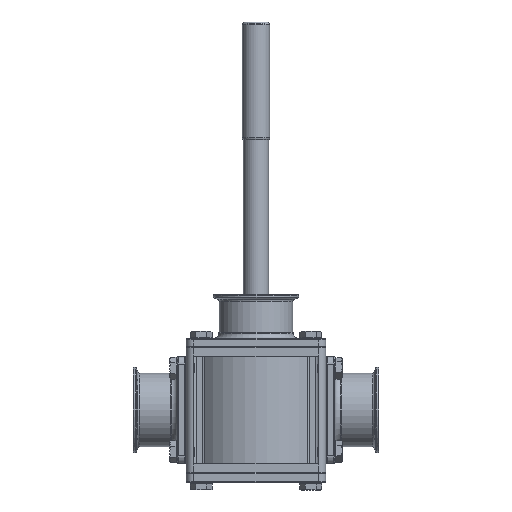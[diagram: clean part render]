
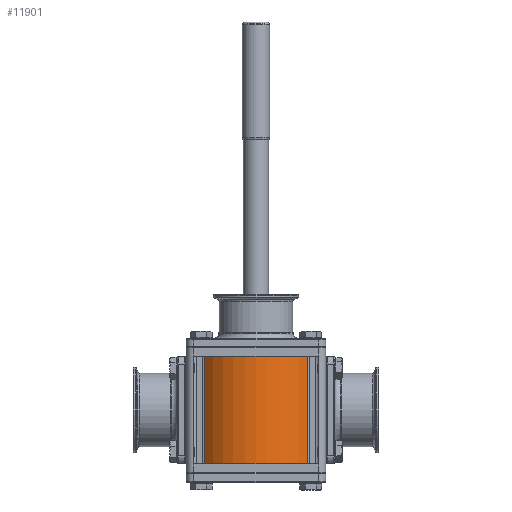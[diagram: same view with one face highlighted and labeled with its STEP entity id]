
A CAD part, front view. The second image highlights one B-rep face of the part: STEP entity #11901.
In plain terms, the highlighted cylindrical face has radius 73 mm (diameter 146 mm), a partial arc.
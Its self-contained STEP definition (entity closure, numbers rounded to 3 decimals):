
#464 = CIRCLE ( 'NONE', #25805, 73. ) ;
#520 = CARTESIAN_POINT ( 'NONE',  ( 0., 0., -57. ) ) ;
#1046 = DIRECTION ( 'NONE',  ( 0., 0., 1. ) ) ;
#3224 = DIRECTION ( 'NONE',  ( 1., 0., 0. ) ) ;
#3686 = DIRECTION ( 'NONE',  ( 0., 0., 1. ) ) ;
#4414 = VERTEX_POINT ( 'NONE', #36148 ) ;
#5876 = VECTOR ( 'NONE', #24352, 1000. ) ;
#7927 = EDGE_CURVE ( 'NONE', #4414, #37029, #8576, .T. ) ;
#8576 = CIRCLE ( 'NONE', #11711, 73. ) ;
#8681 = AXIS2_PLACEMENT_3D ( 'NONE', #520, #1046, #9509 ) ;
#9509 = DIRECTION ( 'NONE',  ( 1., 0., 0. ) ) ;
#10559 = VERTEX_POINT ( 'NONE', #22935 ) ;
#11691 = DIRECTION ( 'NONE',  ( 0., 0., -1. ) ) ;
#11711 = AXIS2_PLACEMENT_3D ( 'NONE', #23866, #11691, #3224 ) ;
#11901 = ADVANCED_FACE ( 'NONE', ( #21527 ), #31285, .T. ) ;
#12576 = ORIENTED_EDGE ( 'NONE', *, *, #7927, .T. ) ;
#13703 = EDGE_LOOP ( 'NONE', ( #12576, #35916, #33095, #23432 ) ) ;
#15154 = EDGE_CURVE ( 'NONE', #10559, #4414, #24901, .T. ) ;
#15756 = LINE ( 'NONE', #33408, #21794 ) ;
#16984 = CARTESIAN_POINT ( 'NONE',  ( -54.123, -48.987, -57. ) ) ;
#19324 = CARTESIAN_POINT ( 'NONE',  ( 0., 0., -57. ) ) ;
#21527 = FACE_OUTER_BOUND ( 'NONE', #13703, .T. ) ;
#21794 = VECTOR ( 'NONE', #3686, 1000. ) ;
#21901 = EDGE_CURVE ( 'NONE', #25641, #37029, #15756, .T. ) ;
#22426 = DIRECTION ( 'NONE',  ( 0., 0., -1. ) ) ;
#22935 = CARTESIAN_POINT ( 'NONE',  ( 54.123, -48.987, -57. ) ) ;
#23432 = ORIENTED_EDGE ( 'NONE', *, *, #15154, .T. ) ;
#23866 = CARTESIAN_POINT ( 'NONE',  ( 0., 0., 57. ) ) ;
#24352 = DIRECTION ( 'NONE',  ( 0., 0., 1. ) ) ;
#24901 = LINE ( 'NONE', #29796, #5876 ) ;
#25641 = VERTEX_POINT ( 'NONE', #16984 ) ;
#25805 = AXIS2_PLACEMENT_3D ( 'NONE', #19324, #22426, #31737 ) ;
#29796 = CARTESIAN_POINT ( 'NONE',  ( 54.123, -48.987, -57. ) ) ;
#30824 = EDGE_CURVE ( 'NONE', #10559, #25641, #464, .T. ) ;
#31285 = CYLINDRICAL_SURFACE ( 'NONE', #8681, 73. ) ;
#31737 = DIRECTION ( 'NONE',  ( 1., 0., 0. ) ) ;
#33095 = ORIENTED_EDGE ( 'NONE', *, *, #30824, .F. ) ;
#33408 = CARTESIAN_POINT ( 'NONE',  ( -54.123, -48.987, -57. ) ) ;
#35916 = ORIENTED_EDGE ( 'NONE', *, *, #21901, .F. ) ;
#36148 = CARTESIAN_POINT ( 'NONE',  ( 54.123, -48.987, 57. ) ) ;
#37029 = VERTEX_POINT ( 'NONE', #38337 ) ;
#38337 = CARTESIAN_POINT ( 'NONE',  ( -54.123, -48.987, 57. ) ) ;
